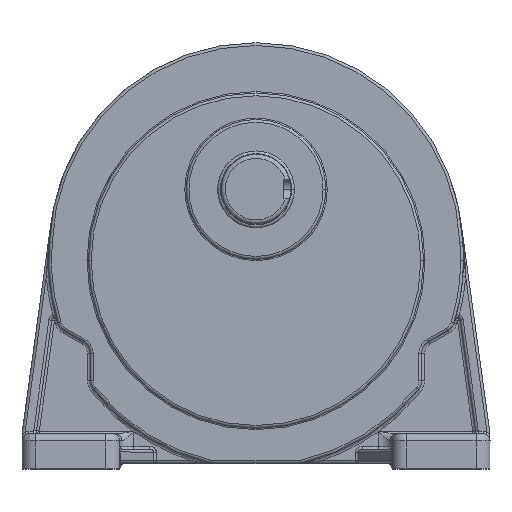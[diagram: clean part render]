
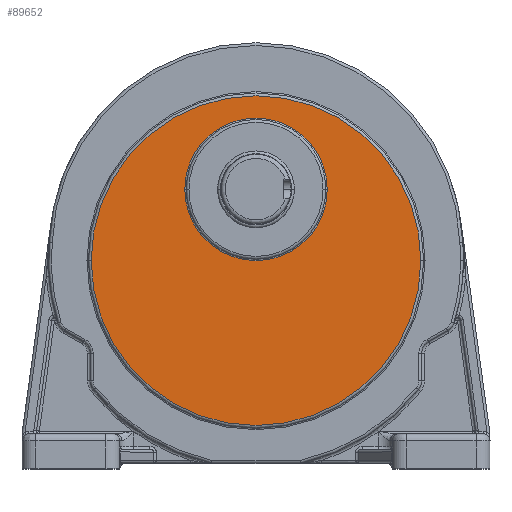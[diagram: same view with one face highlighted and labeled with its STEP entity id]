
A CAD part, top view. The second image highlights one B-rep face of the part: STEP entity #89652.
In plain terms, the highlighted planar face has unit normal (0, 0, 1).
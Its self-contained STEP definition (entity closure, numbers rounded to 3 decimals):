
#1753 = ORIENTED_EDGE ( 'NONE', *, *, #83166, .T. ) ;
#6656 = CARTESIAN_POINT ( 'NONE',  ( 0., 0., 386.5 ) ) ;
#7982 = CARTESIAN_POINT ( 'NONE',  ( 0., 51., 386.5 ) ) ;
#8264 = DIRECTION ( 'NONE',  ( 1., 0., 0. ) ) ;
#8279 = CARTESIAN_POINT ( 'NONE',  ( 0., 0., 386.5 ) ) ;
#15204 = CARTESIAN_POINT ( 'NONE',  ( 118., 0., 386.5 ) ) ;
#15375 = CIRCLE ( 'NONE', #30632, 118. ) ;
#16428 = AXIS2_PLACEMENT_3D ( 'NONE', #53539, #90029, #8264 ) ;
#16745 = DIRECTION ( 'NONE',  ( -1., 0., 0. ) ) ;
#16997 = CIRCLE ( 'NONE', #83681, 51. ) ;
#17202 = PLANE ( 'NONE',  #16428 ) ;
#18520 = EDGE_LOOP ( 'NONE', ( #109324, #21745 ) ) ;
#21745 = ORIENTED_EDGE ( 'NONE', *, *, #53484, .F. ) ;
#22306 = CARTESIAN_POINT ( 'NONE',  ( -118., 0., 386.5 ) ) ;
#30632 = AXIS2_PLACEMENT_3D ( 'NONE', #8279, #44589, #81033 ) ;
#36758 = CARTESIAN_POINT ( 'NONE',  ( 51., 51.021, 386.5 ) ) ;
#37092 = VERTEX_POINT ( 'NONE', #22306 ) ;
#37929 = ORIENTED_EDGE ( 'NONE', *, *, #93473, .F. ) ;
#40022 = VERTEX_POINT ( 'NONE', #44343 ) ;
#42954 = DIRECTION ( 'NONE',  ( 0., 0., -1. ) ) ;
#43860 = CIRCLE ( 'NONE', #110766, 118. ) ;
#44300 = DIRECTION ( 'NONE',  ( 0., 0., -1. ) ) ;
#44343 = CARTESIAN_POINT ( 'NONE',  ( -51., 50.979, 386.5 ) ) ;
#44589 = DIRECTION ( 'NONE',  ( 0., 0., -1. ) ) ;
#46973 = EDGE_LOOP ( 'NONE', ( #1753, #37929 ) ) ;
#47759 = CIRCLE ( 'NONE', #63000, 51. ) ;
#53484 = EDGE_CURVE ( 'NONE', #87128, #37092, #15375, .T. ) ;
#53539 = CARTESIAN_POINT ( 'NONE',  ( 0., 0., 386.5 ) ) ;
#62027 = CARTESIAN_POINT ( 'NONE',  ( 0., 51., 386.5 ) ) ;
#62482 = FACE_OUTER_BOUND ( 'NONE', #18520, .T. ) ;
#63000 = AXIS2_PLACEMENT_3D ( 'NONE', #7982, #44300, #80747 ) ;
#79401 = DIRECTION ( 'NONE',  ( -1., 0., 0. ) ) ;
#80747 = DIRECTION ( 'NONE',  ( -1., 0., 0. ) ) ;
#81033 = DIRECTION ( 'NONE',  ( 1., 0., 0. ) ) ;
#83166 = EDGE_CURVE ( 'NONE', #40022, #91782, #47759, .T. ) ;
#83681 = AXIS2_PLACEMENT_3D ( 'NONE', #62027, #98567, #16745 ) ;
#87128 = VERTEX_POINT ( 'NONE', #15204 ) ;
#89652 = ADVANCED_FACE ( 'NONE', ( #62482, #99025 ), #17202, .T. ) ;
#90029 = DIRECTION ( 'NONE',  ( 0., 0., 1. ) ) ;
#91782 = VERTEX_POINT ( 'NONE', #36758 ) ;
#93473 = EDGE_CURVE ( 'NONE', #40022, #91782, #16997, .T. ) ;
#98567 = DIRECTION ( 'NONE',  ( 0., 0., 1. ) ) ;
#99025 = FACE_BOUND ( 'NONE', #46973, .T. ) ;
#109324 = ORIENTED_EDGE ( 'NONE', *, *, #109489, .F. ) ;
#109489 = EDGE_CURVE ( 'NONE', #37092, #87128, #43860, .T. ) ;
#110766 = AXIS2_PLACEMENT_3D ( 'NONE', #6656, #42954, #79401 ) ;
